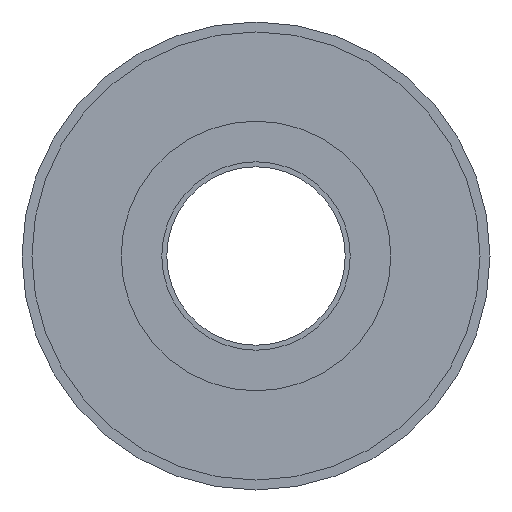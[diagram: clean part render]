
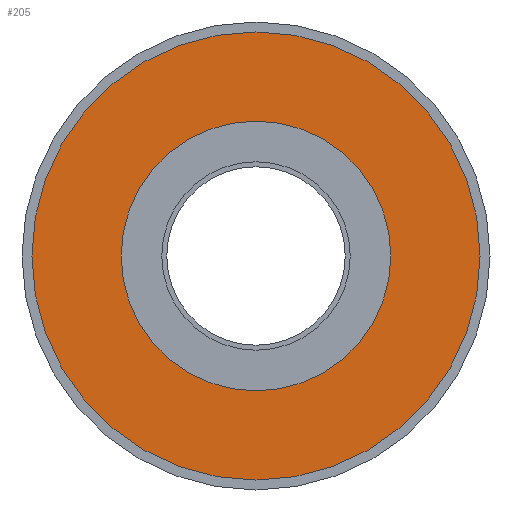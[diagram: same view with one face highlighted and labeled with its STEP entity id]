
A CAD part, left-side view. The second image highlights one B-rep face of the part: STEP entity #205.
In plain terms, the highlighted planar face has unit normal (-1, 0, 0).
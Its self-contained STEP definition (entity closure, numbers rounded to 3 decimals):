
#7 = CARTESIAN_POINT ( 'NONE',  ( 0., 0., -11.3 ) ) ;
#10 = EDGE_CURVE ( 'NONE', #1602, #481, #245, .T. ) ;
#85 = DIRECTION ( 'NONE',  ( 0., 0., 1. ) ) ;
#140 = VERTEX_POINT ( 'NONE', #7 ) ;
#205 = ADVANCED_FACE ( 'NONE', ( #1208, #1536 ), #217, .F. ) ;
#215 = ORIENTED_EDGE ( 'NONE', *, *, #10, .F. ) ;
#217 = PLANE ( 'NONE',  #583 ) ;
#221 = DIRECTION ( 'NONE',  ( 0., 0., 1. ) ) ;
#245 = CIRCLE ( 'NONE', #616, 6.8 ) ;
#269 = EDGE_LOOP ( 'NONE', ( #1007, #620 ) ) ;
#312 = AXIS2_PLACEMENT_3D ( 'NONE', #1472, #962, #221 ) ;
#317 = CIRCLE ( 'NONE', #1151, 11.3 ) ;
#331 = CARTESIAN_POINT ( 'NONE',  ( 0., 6.8, 0. ) ) ;
#395 = DIRECTION ( 'NONE',  ( 0., 0., 1. ) ) ;
#481 = VERTEX_POINT ( 'NONE', #1458 ) ;
#507 = CARTESIAN_POINT ( 'NONE',  ( 0., 0., 11.3 ) ) ;
#563 = DIRECTION ( 'NONE',  ( -1., 0., 0. ) ) ;
#583 = AXIS2_PLACEMENT_3D ( 'NONE', #331, #828, #1570 ) ;
#589 = CIRCLE ( 'NONE', #1199, 11.3 ) ;
#616 = AXIS2_PLACEMENT_3D ( 'NONE', #1540, #922, #395 ) ;
#620 = ORIENTED_EDGE ( 'NONE', *, *, #1545, .T. ) ;
#658 = VERTEX_POINT ( 'NONE', #507 ) ;
#828 = DIRECTION ( 'NONE',  ( 1., 0., 0. ) ) ;
#832 = CARTESIAN_POINT ( 'NONE',  ( 0., 0., -6.8 ) ) ;
#833 = DIRECTION ( 'NONE',  ( -1., 0., 0. ) ) ;
#886 = EDGE_CURVE ( 'NONE', #481, #1602, #1062, .T. ) ;
#906 = EDGE_LOOP ( 'NONE', ( #914, #215 ) ) ;
#914 = ORIENTED_EDGE ( 'NONE', *, *, #886, .F. ) ;
#922 = DIRECTION ( 'NONE',  ( -1., 0., 0. ) ) ;
#955 = EDGE_CURVE ( 'NONE', #658, #140, #317, .T. ) ;
#962 = DIRECTION ( 'NONE',  ( -1., 0., 0. ) ) ;
#1007 = ORIENTED_EDGE ( 'NONE', *, *, #955, .T. ) ;
#1062 = CIRCLE ( 'NONE', #312, 6.8 ) ;
#1151 = AXIS2_PLACEMENT_3D ( 'NONE', #1575, #833, #85 ) ;
#1199 = AXIS2_PLACEMENT_3D ( 'NONE', #1302, #563, #1433 ) ;
#1208 = FACE_BOUND ( 'NONE', #906, .T. ) ;
#1302 = CARTESIAN_POINT ( 'NONE',  ( 0., 0., 0. ) ) ;
#1433 = DIRECTION ( 'NONE',  ( 0., 0., 1. ) ) ;
#1458 = CARTESIAN_POINT ( 'NONE',  ( 0., 0., 6.8 ) ) ;
#1472 = CARTESIAN_POINT ( 'NONE',  ( 0., 0., 0. ) ) ;
#1536 = FACE_OUTER_BOUND ( 'NONE', #269, .T. ) ;
#1540 = CARTESIAN_POINT ( 'NONE',  ( 0., 0., 0. ) ) ;
#1545 = EDGE_CURVE ( 'NONE', #140, #658, #589, .T. ) ;
#1570 = DIRECTION ( 'NONE',  ( 0., 0., -1. ) ) ;
#1575 = CARTESIAN_POINT ( 'NONE',  ( 0., 0., 0. ) ) ;
#1602 = VERTEX_POINT ( 'NONE', #832 ) ;
